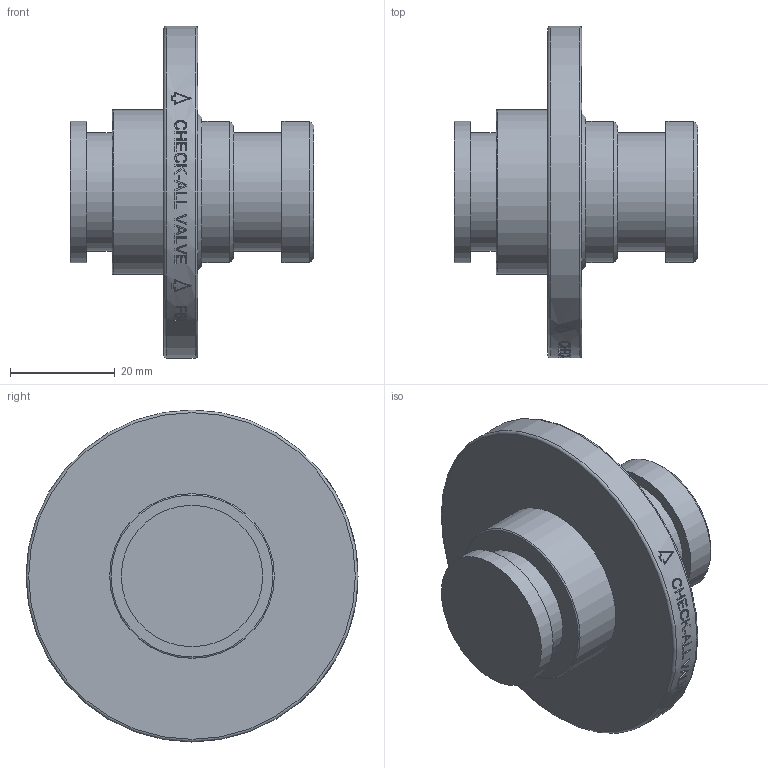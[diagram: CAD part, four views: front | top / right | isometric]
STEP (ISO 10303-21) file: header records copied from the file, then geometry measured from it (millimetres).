
FILE_DESCRIPTION( ( 'Unknown' ), '1' );
FILE_NAME( 'Y:/ENGR/3D Solid Edge Models/F6/F6 STEP/F6I.stp', 'Unknown', ( 'Unknown' ), ( 'Unknown' ), 'PSStep 14.0', 'Unknown', ' ' );
FILE_SCHEMA( ( 'AUTOMOTIVE_DESIGN { 1 0 10303 214 1 1 1 1 }' ) );
Length unit declared in the file: millimetre
Products named in the file (1): 1
Bounding box: 46.58 x 63.5 x 63.5 mm (x, y, z)
Volume: 43116.1 mm3; surface area: 11502.6 mm2
Topology: 1 solids, 1 shells, 206 faces, 514 edges, 341 vertices
Faces by surface type: plane 124, bspline 45, cylinder 31, torus 3, cone 3
Full cylindrical faces by diameter (mm): 22.606 x2, 27 x2, 27.051 x1, 31.471 x1, 63.5 x1
Entity records: 9085 total; most frequent: CARTESIAN_POINT 3613, ORIENTED_EDGE 1000, EDGE_CURVE 500, B_SPLINE_CURVE_WITH_KNOTS 479, DIRECTION 366, VERTEX_POINT 341, EDGE_LOOP 251, FACE_OUTER_BOUND 217
